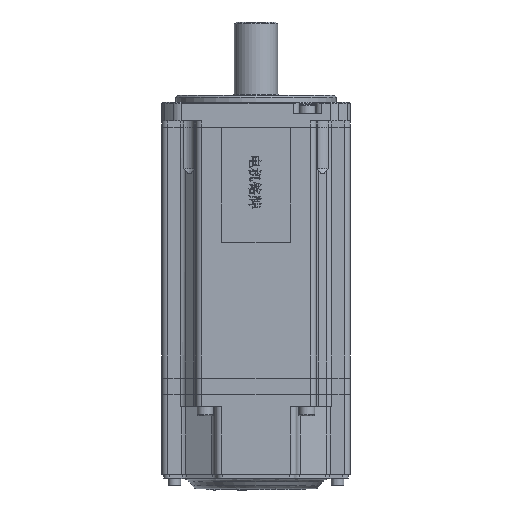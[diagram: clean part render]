
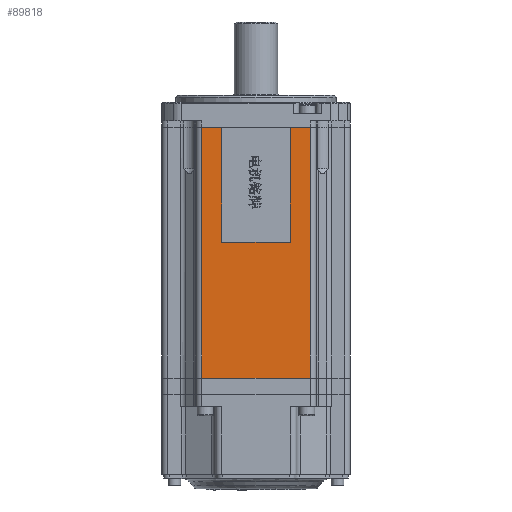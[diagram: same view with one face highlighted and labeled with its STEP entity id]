
A CAD part, front view. The second image highlights one B-rep face of the part: STEP entity #89818.
In plain terms, the highlighted planar face has unit normal (0, -1, 0).
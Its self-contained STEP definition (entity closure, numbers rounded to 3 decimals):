
#341 = EDGE_LOOP ( 'NONE', ( #2502, #40089, #64936, #13015, #69759, #22277, #39864, #40816 ) ) ;
#781 = LINE ( 'NONE', #21217, #73122 ) ;
#922 = VERTEX_POINT ( 'NONE', #87032 ) ;
#2502 = ORIENTED_EDGE ( 'NONE', *, *, #22228, .T. ) ;
#4952 = VERTEX_POINT ( 'NONE', #39071 ) ;
#5242 = CARTESIAN_POINT ( 'NONE',  ( -15., -41., 59.2 ) ) ;
#6505 = EDGE_CURVE ( 'NONE', #922, #40980, #13616, .T. ) ;
#8642 = EDGE_CURVE ( 'NONE', #18916, #922, #87917, .T. ) ;
#9869 = VERTEX_POINT ( 'NONE', #51612 ) ;
#12081 = EDGE_CURVE ( 'NONE', #45528, #4952, #781, .T. ) ;
#13015 = ORIENTED_EDGE ( 'NONE', *, *, #43606, .F. ) ;
#13616 = LINE ( 'NONE', #85814, #72771 ) ;
#13647 = EDGE_CURVE ( 'NONE', #9869, #18916, #60990, .T. ) ;
#18916 = VERTEX_POINT ( 'NONE', #24000 ) ;
#21217 = CARTESIAN_POINT ( 'NONE',  ( 15., -41., 59.2 ) ) ;
#22228 = EDGE_CURVE ( 'NONE', #25764, #4952, #59704, .T. ) ;
#22277 = ORIENTED_EDGE ( 'NONE', *, *, #8642, .T. ) ;
#22419 = VECTOR ( 'NONE', #59269, 1000. ) ;
#24000 = CARTESIAN_POINT ( 'NONE',  ( -23.75, -41., 109.2 ) ) ;
#25764 = VERTEX_POINT ( 'NONE', #26986 ) ;
#26986 = CARTESIAN_POINT ( 'NONE',  ( 23.75, -41., 109.2 ) ) ;
#28494 = CARTESIAN_POINT ( 'NONE',  ( 23.75, -41., 0. ) ) ;
#29606 = CARTESIAN_POINT ( 'NONE',  ( 15., -41., 59.2 ) ) ;
#29758 = DIRECTION ( 'NONE',  ( 1., 0., 0. ) ) ;
#30586 = DIRECTION ( 'NONE',  ( 0., 0., -1. ) ) ;
#31171 = CARTESIAN_POINT ( 'NONE',  ( -23.75, -41., 1000. ) ) ;
#32205 = CARTESIAN_POINT ( 'NONE',  ( -15., -41., 59.2 ) ) ;
#33512 = CARTESIAN_POINT ( 'NONE',  ( -198.803, -41., 109.2 ) ) ;
#39071 = CARTESIAN_POINT ( 'NONE',  ( 15., -41., 109.2 ) ) ;
#39864 = ORIENTED_EDGE ( 'NONE', *, *, #6505, .T. ) ;
#40089 = ORIENTED_EDGE ( 'NONE', *, *, #12081, .F. ) ;
#40816 = ORIENTED_EDGE ( 'NONE', *, *, #44553, .F. ) ;
#40980 = VERTEX_POINT ( 'NONE', #28494 ) ;
#41754 = DIRECTION ( 'NONE',  ( 0., 0., 1. ) ) ;
#43606 = EDGE_CURVE ( 'NONE', #9869, #83835, #85101, .T. ) ;
#44553 = EDGE_CURVE ( 'NONE', #25764, #40980, #61937, .T. ) ;
#45528 = VERTEX_POINT ( 'NONE', #29606 ) ;
#46572 = VECTOR ( 'NONE', #53856, 1000. ) ;
#47968 = AXIS2_PLACEMENT_3D ( 'NONE', #83812, #69398, #76451 ) ;
#48429 = VECTOR ( 'NONE', #30586, 1000. ) ;
#48956 = VECTOR ( 'NONE', #61307, 1000. ) ;
#51612 = CARTESIAN_POINT ( 'NONE',  ( -15., -41., 109.2 ) ) ;
#52960 = CARTESIAN_POINT ( 'NONE',  ( 23.75, -41., 1000. ) ) ;
#53856 = DIRECTION ( 'NONE',  ( 0., 0., -1. ) ) ;
#55340 = PLANE ( 'NONE',  #47968 ) ;
#57595 = EDGE_CURVE ( 'NONE', #83835, #45528, #59214, .T. ) ;
#59214 = LINE ( 'NONE', #32205, #86756 ) ;
#59269 = DIRECTION ( 'NONE',  ( -1., 0., 0. ) ) ;
#59704 = LINE ( 'NONE', #88022, #22419 ) ;
#60990 = LINE ( 'NONE', #33512, #71903 ) ;
#61307 = DIRECTION ( 'NONE',  ( 0., 0., -1. ) ) ;
#61937 = LINE ( 'NONE', #52960, #46572 ) ;
#64936 = ORIENTED_EDGE ( 'NONE', *, *, #57595, .F. ) ;
#69398 = DIRECTION ( 'NONE',  ( 0., 1., 0. ) ) ;
#69759 = ORIENTED_EDGE ( 'NONE', *, *, #13647, .T. ) ;
#71903 = VECTOR ( 'NONE', #83728, 1000. ) ;
#72424 = FACE_OUTER_BOUND ( 'NONE', #341, .T. ) ;
#72771 = VECTOR ( 'NONE', #29758, 1000. ) ;
#73122 = VECTOR ( 'NONE', #41754, 1000. ) ;
#74718 = DIRECTION ( 'NONE',  ( 1., 0., 0. ) ) ;
#76451 = DIRECTION ( 'NONE',  ( 0., 0., 1. ) ) ;
#77020 = CARTESIAN_POINT ( 'NONE',  ( -15., -41., 59.2 ) ) ;
#83728 = DIRECTION ( 'NONE',  ( -1., 0., 0. ) ) ;
#83812 = CARTESIAN_POINT ( 'NONE',  ( -23.75, -41., 1000. ) ) ;
#83835 = VERTEX_POINT ( 'NONE', #77020 ) ;
#85101 = LINE ( 'NONE', #5242, #48956 ) ;
#85814 = CARTESIAN_POINT ( 'NONE',  ( -23.75, -41., 0. ) ) ;
#86756 = VECTOR ( 'NONE', #74718, 1000. ) ;
#87032 = CARTESIAN_POINT ( 'NONE',  ( -23.75, -41., 0. ) ) ;
#87917 = LINE ( 'NONE', #31171, #48429 ) ;
#88022 = CARTESIAN_POINT ( 'NONE',  ( -198.803, -41., 109.2 ) ) ;
#89818 = ADVANCED_FACE ( 'NONE', ( #72424 ), #55340, .F. ) ;
